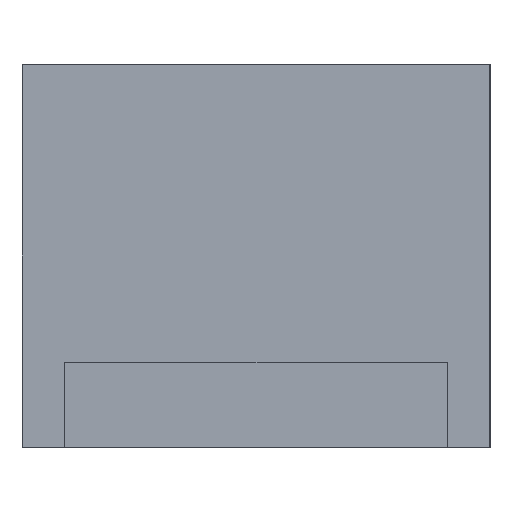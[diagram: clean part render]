
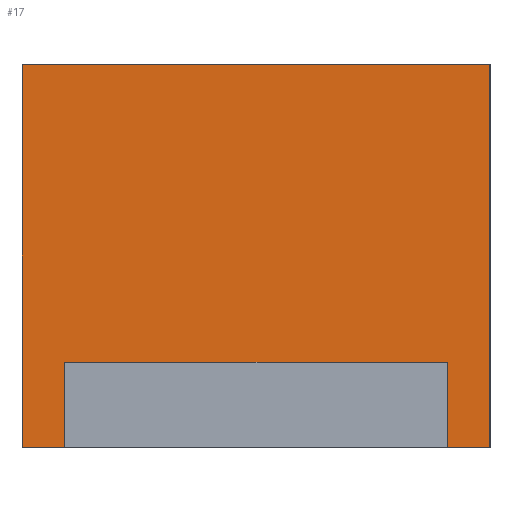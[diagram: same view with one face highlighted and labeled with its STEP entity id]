
A CAD part, left-side view. The second image highlights one B-rep face of the part: STEP entity #17.
In plain terms, the highlighted planar face has unit normal (-1, 0, 0).
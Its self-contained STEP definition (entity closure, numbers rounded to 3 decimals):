
#17 = ADVANCED_FACE('',(#18),#32,.F.);
#18 = FACE_BOUND('',#19,.F.);
#19 = EDGE_LOOP('',(#20,#55,#83,#111,#139,#167,#195,#218));
#20 = ORIENTED_EDGE('',*,*,#21,.F.);
#21 = EDGE_CURVE('',#22,#24,#26,.T.);
#22 = VERTEX_POINT('',#23);
#23 = CARTESIAN_POINT('',(137.,54.,219.5));
#24 = VERTEX_POINT('',#25);
#25 = CARTESIAN_POINT('',(137.,76.,219.5));
#26 = SURFACE_CURVE('',#27,(#31,#43),.PCURVE_S1.);
#27 = LINE('',#28,#29);
#28 = CARTESIAN_POINT('',(137.,54.,219.5));
#29 = VECTOR('',#30,1.);
#30 = DIRECTION('',(0.,1.,0.));
#31 = PCURVE('',#32,#37);
#32 = PLANE('',#33);
#33 = AXIS2_PLACEMENT_3D('',#34,#35,#36);
#34 = CARTESIAN_POINT('',(137.,54.,201.5));
#35 = DIRECTION('',(1.,0.,0.));
#36 = DIRECTION('',(0.,0.,1.));
#37 = DEFINITIONAL_REPRESENTATION('',(#38),#42);
#38 = LINE('',#39,#40);
#39 = CARTESIAN_POINT('',(18.,0.));
#40 = VECTOR('',#41,1.);
#41 = DIRECTION('',(0.,-1.));
#42 = ( GEOMETRIC_REPRESENTATION_CONTEXT(2) 
PARAMETRIC_REPRESENTATION_CONTEXT() REPRESENTATION_CONTEXT('2D SPACE',''
  ) );
#43 = PCURVE('',#44,#49);
#44 = PLANE('',#45);
#45 = AXIS2_PLACEMENT_3D('',#46,#47,#48);
#46 = CARTESIAN_POINT('',(137.,54.,219.5));
#47 = DIRECTION('',(0.,0.,1.));
#48 = DIRECTION('',(1.,0.,0.));
#49 = DEFINITIONAL_REPRESENTATION('',(#50),#54);
#50 = LINE('',#51,#52);
#51 = CARTESIAN_POINT('',(0.,0.));
#52 = VECTOR('',#53,1.);
#53 = DIRECTION('',(0.,1.));
#54 = ( GEOMETRIC_REPRESENTATION_CONTEXT(2) 
PARAMETRIC_REPRESENTATION_CONTEXT() REPRESENTATION_CONTEXT('2D SPACE',''
  ) );
#55 = ORIENTED_EDGE('',*,*,#56,.F.);
#56 = EDGE_CURVE('',#57,#22,#59,.T.);
#57 = VERTEX_POINT('',#58);
#58 = CARTESIAN_POINT('',(137.,54.,201.5));
#59 = SURFACE_CURVE('',#60,(#64,#71),.PCURVE_S1.);
#60 = LINE('',#61,#62);
#61 = CARTESIAN_POINT('',(137.,54.,201.5));
#62 = VECTOR('',#63,1.);
#63 = DIRECTION('',(0.,0.,1.));
#64 = PCURVE('',#32,#65);
#65 = DEFINITIONAL_REPRESENTATION('',(#66),#70);
#66 = LINE('',#67,#68);
#67 = CARTESIAN_POINT('',(0.,0.));
#68 = VECTOR('',#69,1.);
#69 = DIRECTION('',(1.,0.));
#70 = ( GEOMETRIC_REPRESENTATION_CONTEXT(2) 
PARAMETRIC_REPRESENTATION_CONTEXT() REPRESENTATION_CONTEXT('2D SPACE',''
  ) );
#71 = PCURVE('',#72,#77);
#72 = PLANE('',#73);
#73 = AXIS2_PLACEMENT_3D('',#74,#75,#76);
#74 = CARTESIAN_POINT('',(137.,54.,201.5));
#75 = DIRECTION('',(0.,1.,0.));
#76 = DIRECTION('',(0.,0.,1.));
#77 = DEFINITIONAL_REPRESENTATION('',(#78),#82);
#78 = LINE('',#79,#80);
#79 = CARTESIAN_POINT('',(0.,0.));
#80 = VECTOR('',#81,1.);
#81 = DIRECTION('',(1.,0.));
#82 = ( GEOMETRIC_REPRESENTATION_CONTEXT(2) 
PARAMETRIC_REPRESENTATION_CONTEXT() REPRESENTATION_CONTEXT('2D SPACE',''
  ) );
#83 = ORIENTED_EDGE('',*,*,#84,.T.);
#84 = EDGE_CURVE('',#57,#85,#87,.T.);
#85 = VERTEX_POINT('',#86);
#86 = CARTESIAN_POINT('',(137.,56.,201.5));
#87 = SURFACE_CURVE('',#88,(#92,#99),.PCURVE_S1.);
#88 = LINE('',#89,#90);
#89 = CARTESIAN_POINT('',(137.,54.,201.5));
#90 = VECTOR('',#91,1.);
#91 = DIRECTION('',(0.,1.,0.));
#92 = PCURVE('',#32,#93);
#93 = DEFINITIONAL_REPRESENTATION('',(#94),#98);
#94 = LINE('',#95,#96);
#95 = CARTESIAN_POINT('',(0.,0.));
#96 = VECTOR('',#97,1.);
#97 = DIRECTION('',(0.,-1.));
#98 = ( GEOMETRIC_REPRESENTATION_CONTEXT(2) 
PARAMETRIC_REPRESENTATION_CONTEXT() REPRESENTATION_CONTEXT('2D SPACE',''
  ) );
#99 = PCURVE('',#100,#105);
#100 = PLANE('',#101);
#101 = AXIS2_PLACEMENT_3D('',#102,#103,#104);
#102 = CARTESIAN_POINT('',(137.,54.,201.5));
#103 = DIRECTION('',(0.,0.,1.));
#104 = DIRECTION('',(1.,0.,0.));
#105 = DEFINITIONAL_REPRESENTATION('',(#106),#110);
#106 = LINE('',#107,#108);
#107 = CARTESIAN_POINT('',(0.,0.));
#108 = VECTOR('',#109,1.);
#109 = DIRECTION('',(0.,1.));
#110 = ( GEOMETRIC_REPRESENTATION_CONTEXT(2) 
PARAMETRIC_REPRESENTATION_CONTEXT() REPRESENTATION_CONTEXT('2D SPACE',''
  ) );
#111 = ORIENTED_EDGE('',*,*,#112,.T.);
#112 = EDGE_CURVE('',#85,#113,#115,.T.);
#113 = VERTEX_POINT('',#114);
#114 = CARTESIAN_POINT('',(137.,56.,205.5));
#115 = SURFACE_CURVE('',#116,(#120,#127),.PCURVE_S1.);
#116 = LINE('',#117,#118);
#117 = CARTESIAN_POINT('',(137.,56.,201.5));
#118 = VECTOR('',#119,1.);
#119 = DIRECTION('',(0.,0.,1.));
#120 = PCURVE('',#32,#121);
#121 = DEFINITIONAL_REPRESENTATION('',(#122),#126);
#122 = LINE('',#123,#124);
#123 = CARTESIAN_POINT('',(0.,-2.));
#124 = VECTOR('',#125,1.);
#125 = DIRECTION('',(1.,0.));
#126 = ( GEOMETRIC_REPRESENTATION_CONTEXT(2) 
PARAMETRIC_REPRESENTATION_CONTEXT() REPRESENTATION_CONTEXT('2D SPACE',''
  ) );
#127 = PCURVE('',#128,#133);
#128 = PLANE('',#129);
#129 = AXIS2_PLACEMENT_3D('',#130,#131,#132);
#130 = CARTESIAN_POINT('',(101.,56.,201.5));
#131 = DIRECTION('',(0.,1.,0.));
#132 = DIRECTION('',(0.,0.,1.));
#133 = DEFINITIONAL_REPRESENTATION('',(#134),#138);
#134 = LINE('',#135,#136);
#135 = CARTESIAN_POINT('',(0.,36.));
#136 = VECTOR('',#137,1.);
#137 = DIRECTION('',(1.,0.));
#138 = ( GEOMETRIC_REPRESENTATION_CONTEXT(2) 
PARAMETRIC_REPRESENTATION_CONTEXT() REPRESENTATION_CONTEXT('2D SPACE',''
  ) );
#139 = ORIENTED_EDGE('',*,*,#140,.T.);
#140 = EDGE_CURVE('',#113,#141,#143,.T.);
#141 = VERTEX_POINT('',#142);
#142 = CARTESIAN_POINT('',(137.,74.,205.5));
#143 = SURFACE_CURVE('',#144,(#148,#155),.PCURVE_S1.);
#144 = LINE('',#145,#146);
#145 = CARTESIAN_POINT('',(137.,56.,205.5));
#146 = VECTOR('',#147,1.);
#147 = DIRECTION('',(0.,1.,0.));
#148 = PCURVE('',#32,#149);
#149 = DEFINITIONAL_REPRESENTATION('',(#150),#154);
#150 = LINE('',#151,#152);
#151 = CARTESIAN_POINT('',(4.,-2.));
#152 = VECTOR('',#153,1.);
#153 = DIRECTION('',(0.,-1.));
#154 = ( GEOMETRIC_REPRESENTATION_CONTEXT(2) 
PARAMETRIC_REPRESENTATION_CONTEXT() REPRESENTATION_CONTEXT('2D SPACE',''
  ) );
#155 = PCURVE('',#156,#161);
#156 = PLANE('',#157);
#157 = AXIS2_PLACEMENT_3D('',#158,#159,#160);
#158 = CARTESIAN_POINT('',(101.,56.,205.5));
#159 = DIRECTION('',(0.,0.,1.));
#160 = DIRECTION('',(1.,0.,0.));
#161 = DEFINITIONAL_REPRESENTATION('',(#162),#166);
#162 = LINE('',#163,#164);
#163 = CARTESIAN_POINT('',(36.,0.));
#164 = VECTOR('',#165,1.);
#165 = DIRECTION('',(0.,1.));
#166 = ( GEOMETRIC_REPRESENTATION_CONTEXT(2) 
PARAMETRIC_REPRESENTATION_CONTEXT() REPRESENTATION_CONTEXT('2D SPACE',''
  ) );
#167 = ORIENTED_EDGE('',*,*,#168,.F.);
#168 = EDGE_CURVE('',#169,#141,#171,.T.);
#169 = VERTEX_POINT('',#170);
#170 = CARTESIAN_POINT('',(137.,74.,201.5));
#171 = SURFACE_CURVE('',#172,(#176,#183),.PCURVE_S1.);
#172 = LINE('',#173,#174);
#173 = CARTESIAN_POINT('',(137.,74.,201.5));
#174 = VECTOR('',#175,1.);
#175 = DIRECTION('',(0.,0.,1.));
#176 = PCURVE('',#32,#177);
#177 = DEFINITIONAL_REPRESENTATION('',(#178),#182);
#178 = LINE('',#179,#180);
#179 = CARTESIAN_POINT('',(0.,-20.));
#180 = VECTOR('',#181,1.);
#181 = DIRECTION('',(1.,0.));
#182 = ( GEOMETRIC_REPRESENTATION_CONTEXT(2) 
PARAMETRIC_REPRESENTATION_CONTEXT() REPRESENTATION_CONTEXT('2D SPACE',''
  ) );
#183 = PCURVE('',#184,#189);
#184 = PLANE('',#185);
#185 = AXIS2_PLACEMENT_3D('',#186,#187,#188);
#186 = CARTESIAN_POINT('',(101.,74.,201.5));
#187 = DIRECTION('',(0.,1.,0.));
#188 = DIRECTION('',(0.,0.,1.));
#189 = DEFINITIONAL_REPRESENTATION('',(#190),#194);
#190 = LINE('',#191,#192);
#191 = CARTESIAN_POINT('',(0.,36.));
#192 = VECTOR('',#193,1.);
#193 = DIRECTION('',(1.,0.));
#194 = ( GEOMETRIC_REPRESENTATION_CONTEXT(2) 
PARAMETRIC_REPRESENTATION_CONTEXT() REPRESENTATION_CONTEXT('2D SPACE',''
  ) );
#195 = ORIENTED_EDGE('',*,*,#196,.T.);
#196 = EDGE_CURVE('',#169,#197,#199,.T.);
#197 = VERTEX_POINT('',#198);
#198 = CARTESIAN_POINT('',(137.,76.,201.5));
#199 = SURFACE_CURVE('',#200,(#204,#211),.PCURVE_S1.);
#200 = LINE('',#201,#202);
#201 = CARTESIAN_POINT('',(137.,54.,201.5));
#202 = VECTOR('',#203,1.);
#203 = DIRECTION('',(0.,1.,0.));
#204 = PCURVE('',#32,#205);
#205 = DEFINITIONAL_REPRESENTATION('',(#206),#210);
#206 = LINE('',#207,#208);
#207 = CARTESIAN_POINT('',(0.,0.));
#208 = VECTOR('',#209,1.);
#209 = DIRECTION('',(0.,-1.));
#210 = ( GEOMETRIC_REPRESENTATION_CONTEXT(2) 
PARAMETRIC_REPRESENTATION_CONTEXT() REPRESENTATION_CONTEXT('2D SPACE',''
  ) );
#211 = PCURVE('',#100,#212);
#212 = DEFINITIONAL_REPRESENTATION('',(#213),#217);
#213 = LINE('',#214,#215);
#214 = CARTESIAN_POINT('',(0.,0.));
#215 = VECTOR('',#216,1.);
#216 = DIRECTION('',(0.,1.));
#217 = ( GEOMETRIC_REPRESENTATION_CONTEXT(2) 
PARAMETRIC_REPRESENTATION_CONTEXT() REPRESENTATION_CONTEXT('2D SPACE',''
  ) );
#218 = ORIENTED_EDGE('',*,*,#219,.T.);
#219 = EDGE_CURVE('',#197,#24,#220,.T.);
#220 = SURFACE_CURVE('',#221,(#225,#232),.PCURVE_S1.);
#221 = LINE('',#222,#223);
#222 = CARTESIAN_POINT('',(137.,76.,201.5));
#223 = VECTOR('',#224,1.);
#224 = DIRECTION('',(0.,0.,1.));
#225 = PCURVE('',#32,#226);
#226 = DEFINITIONAL_REPRESENTATION('',(#227),#231);
#227 = LINE('',#228,#229);
#228 = CARTESIAN_POINT('',(0.,-22.));
#229 = VECTOR('',#230,1.);
#230 = DIRECTION('',(1.,0.));
#231 = ( GEOMETRIC_REPRESENTATION_CONTEXT(2) 
PARAMETRIC_REPRESENTATION_CONTEXT() REPRESENTATION_CONTEXT('2D SPACE',''
  ) );
#232 = PCURVE('',#233,#238);
#233 = PLANE('',#234);
#234 = AXIS2_PLACEMENT_3D('',#235,#236,#237);
#235 = CARTESIAN_POINT('',(137.,76.,201.5));
#236 = DIRECTION('',(0.,1.,0.));
#237 = DIRECTION('',(0.,0.,1.));
#238 = DEFINITIONAL_REPRESENTATION('',(#239),#243);
#239 = LINE('',#240,#241);
#240 = CARTESIAN_POINT('',(0.,0.));
#241 = VECTOR('',#242,1.);
#242 = DIRECTION('',(1.,0.));
#243 = ( GEOMETRIC_REPRESENTATION_CONTEXT(2) 
PARAMETRIC_REPRESENTATION_CONTEXT() REPRESENTATION_CONTEXT('2D SPACE',''
  ) );
